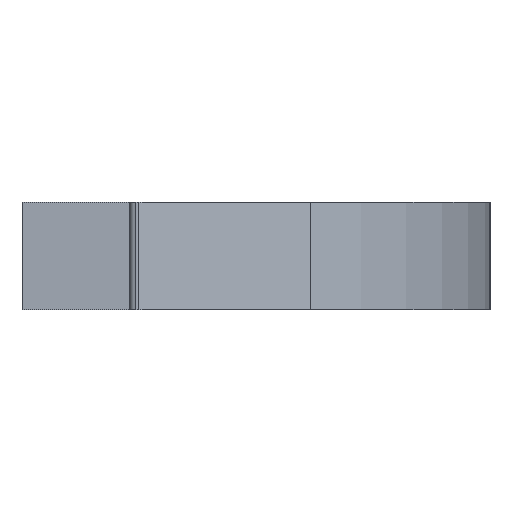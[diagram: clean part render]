
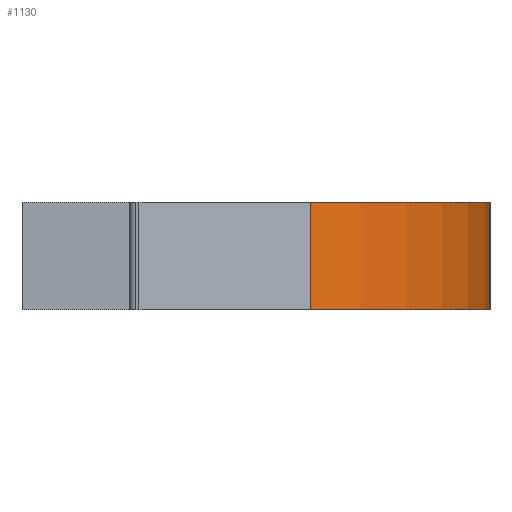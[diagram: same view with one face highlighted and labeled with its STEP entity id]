
A CAD part, left-side view. The second image highlights one B-rep face of the part: STEP entity #1130.
In plain terms, the highlighted cylindrical face has radius 60 mm (diameter 120 mm), a partial arc.
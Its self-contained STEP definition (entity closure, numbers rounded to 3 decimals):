
#1 = FACE_OUTER_BOUND ( 'NONE', #205, .T. ) ;
#21 = CYLINDRICAL_SURFACE ( 'NONE', #316, 60. ) ;
#40 = CIRCLE ( 'NONE', #46, 60. ) ;
#46 = AXIS2_PLACEMENT_3D ( 'NONE', #1224, #537, #1112 ) ;
#126 = EDGE_CURVE ( 'NONE', #1380, #1480, #951, .T. ) ;
#198 = EDGE_CURVE ( 'NONE', #794, #924, #40, .T. ) ;
#205 = EDGE_LOOP ( 'NONE', ( #1030, #1251, #813, #923 ) ) ;
#316 = AXIS2_PLACEMENT_3D ( 'NONE', #1424, #365, #1399 ) ;
#340 = VECTOR ( 'NONE', #513, 1000. ) ;
#365 = DIRECTION ( 'NONE',  ( 0., 0., -1. ) ) ;
#394 = CARTESIAN_POINT ( 'NONE',  ( 678.028, -66.868, 18. ) ) ;
#483 = LINE ( 'NONE', #1469, #340 ) ;
#513 = DIRECTION ( 'NONE',  ( 0., 0., -1. ) ) ;
#537 = DIRECTION ( 'NONE',  ( 0., 0., 1. ) ) ;
#566 = LINE ( 'NONE', #742, #1268 ) ;
#643 = EDGE_CURVE ( 'NONE', #1380, #794, #483, .T. ) ;
#698 = CARTESIAN_POINT ( 'NONE',  ( 678.028, -126.868, 18. ) ) ;
#740 = DIRECTION ( 'NONE',  ( 1., 0., 0. ) ) ;
#742 = CARTESIAN_POINT ( 'NONE',  ( 678.028, -126.868, 18. ) ) ;
#794 = VERTEX_POINT ( 'NONE', #829 ) ;
#813 = ORIENTED_EDGE ( 'NONE', *, *, #126, .F. ) ;
#829 = CARTESIAN_POINT ( 'NONE',  ( 626.066, -96.868, 0. ) ) ;
#898 = DIRECTION ( 'NONE',  ( 0., 0., -1. ) ) ;
#923 = ORIENTED_EDGE ( 'NONE', *, *, #643, .T. ) ;
#924 = VERTEX_POINT ( 'NONE', #933 ) ;
#933 = CARTESIAN_POINT ( 'NONE',  ( 678.028, -126.868, 0. ) ) ;
#951 = CIRCLE ( 'NONE', #1458, 60. ) ;
#1030 = ORIENTED_EDGE ( 'NONE', *, *, #198, .T. ) ;
#1112 = DIRECTION ( 'NONE',  ( 1., 0., 0. ) ) ;
#1130 = ADVANCED_FACE ( 'NONE', ( #1 ), #21, .T. ) ;
#1201 = DIRECTION ( 'NONE',  ( 0., 0., 1. ) ) ;
#1224 = CARTESIAN_POINT ( 'NONE',  ( 678.028, -66.868, 0. ) ) ;
#1251 = ORIENTED_EDGE ( 'NONE', *, *, #1467, .F. ) ;
#1268 = VECTOR ( 'NONE', #898, 1000. ) ;
#1380 = VERTEX_POINT ( 'NONE', #1425 ) ;
#1399 = DIRECTION ( 'NONE',  ( -1., 0., 0. ) ) ;
#1424 = CARTESIAN_POINT ( 'NONE',  ( 678.028, -66.868, 18. ) ) ;
#1425 = CARTESIAN_POINT ( 'NONE',  ( 626.066, -96.868, 18. ) ) ;
#1458 = AXIS2_PLACEMENT_3D ( 'NONE', #394, #1201, #740 ) ;
#1467 = EDGE_CURVE ( 'NONE', #1480, #924, #566, .T. ) ;
#1469 = CARTESIAN_POINT ( 'NONE',  ( 626.066, -96.868, 18. ) ) ;
#1480 = VERTEX_POINT ( 'NONE', #698 ) ;
